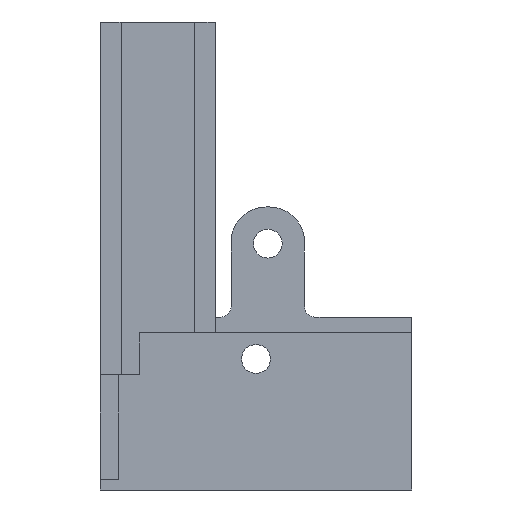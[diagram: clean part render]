
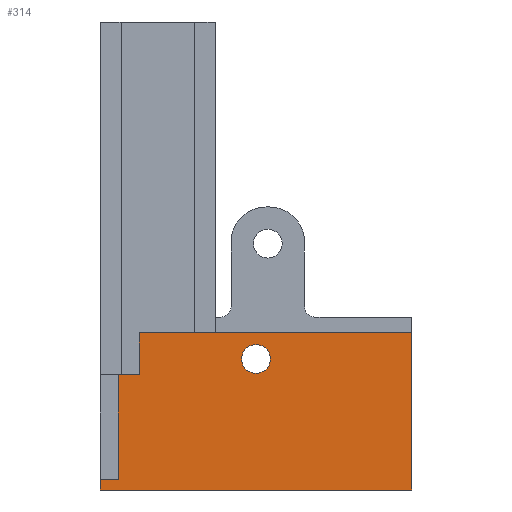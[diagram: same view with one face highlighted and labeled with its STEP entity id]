
A CAD part, front view. The second image highlights one B-rep face of the part: STEP entity #314.
In plain terms, the highlighted planar face has unit normal (0, -1, 0).
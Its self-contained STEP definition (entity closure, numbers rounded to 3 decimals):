
#3 = EDGE_CURVE ( 'NONE', #912, #860, #1227, .T. ) ;
#6 = EDGE_CURVE ( 'NONE', #904, #758, #1254, .T. ) ;
#7 = EDGE_CURVE ( 'NONE', #904, #801, #1862, .T. ) ;
#63 = EDGE_CURVE ( 'NONE', #860, #770, #1288, .T. ) ;
#106 = EDGE_CURVE ( 'NONE', #920, #796, #1729, .T. ) ;
#160 = EDGE_CURVE ( 'NONE', #770, #758, #1794, .T. ) ;
#314 = ADVANCED_FACE ( 'NONE', ( #1295, #1294 ), #2093, .F. ) ;
#468 = AXIS2_PLACEMENT_3D ( 'NONE', #4705, #4706, #4726 ) ;
#508 = AXIS2_PLACEMENT_3D ( 'NONE', #2091, #2092, #2090 ) ;
#668 = EDGE_CURVE ( 'NONE', #933, #875, #940, .T. ) ;
#682 = EDGE_CURVE ( 'NONE', #801, #875, #956, .T. ) ;
#758 = VERTEX_POINT ( 'NONE', #3171 ) ;
#770 = VERTEX_POINT ( 'NONE', #3090 ) ;
#796 = VERTEX_POINT ( 'NONE', #3278 ) ;
#801 = VERTEX_POINT ( 'NONE', #3022 ) ;
#860 = VERTEX_POINT ( 'NONE', #3200 ) ;
#875 = VERTEX_POINT ( 'NONE', #3288 ) ;
#904 = VERTEX_POINT ( 'NONE', #3266 ) ;
#912 = VERTEX_POINT ( 'NONE', #3249 ) ;
#920 = VERTEX_POINT ( 'NONE', #3104 ) ;
#933 = VERTEX_POINT ( 'NONE', #3129 ) ;
#940 = LINE ( 'NONE', #1022, #947 ) ;
#947 = VECTOR ( 'NONE', #1023, 1000. ) ;
#955 = VECTOR ( 'NONE', #3709, 1000. ) ;
#956 = LINE ( 'NONE', #3710, #955 ) ;
#1022 = CARTESIAN_POINT ( 'NONE',  ( 0., 0., 0. ) ) ;
#1023 = DIRECTION ( 'NONE',  ( 1., 0., 0. ) ) ;
#1226 = VECTOR ( 'NONE', #4138, 1000. ) ;
#1227 = LINE ( 'NONE', #4128, #1226 ) ;
#1254 = LINE ( 'NONE', #4215, #1255 ) ;
#1255 = VECTOR ( 'NONE', #4031, 1000. ) ;
#1288 = LINE ( 'NONE', #4188, #1662 ) ;
#1289 = VECTOR ( 'NONE', #4266, 1000. ) ;
#1294 = FACE_OUTER_BOUND ( 'NONE', #2249, .T. ) ;
#1295 = FACE_BOUND ( 'NONE', #2236, .T. ) ;
#1662 = VECTOR ( 'NONE', #4182, 1000. ) ;
#1729 = CIRCLE ( 'NONE', #4809, 1.375 ) ;
#1794 = LINE ( 'NONE', #4374, #1795 ) ;
#1795 = VECTOR ( 'NONE', #4380, 1000. ) ;
#1862 = LINE ( 'NONE', #4280, #1289 ) ;
#2090 = DIRECTION ( 'NONE',  ( 0., 0., 1. ) ) ;
#2091 = CARTESIAN_POINT ( 'NONE',  ( 0., 0., 11. ) ) ;
#2092 = DIRECTION ( 'NONE',  ( 0., 1., 0. ) ) ;
#2093 = PLANE ( 'NONE',  #508 ) ;
#2236 = EDGE_LOOP ( 'NONE', ( #2831, #2832 ) ) ;
#2249 = EDGE_LOOP ( 'NONE', ( #2661, #2659, #2657, #2660, #2658, #2651, #2650, #2649 ) ) ;
#2649 = ORIENTED_EDGE ( 'NONE', *, *, #6, .T. ) ;
#2650 = ORIENTED_EDGE ( 'NONE', *, *, #7, .F. ) ;
#2651 = ORIENTED_EDGE ( 'NONE', *, *, #682, .F. ) ;
#2657 = ORIENTED_EDGE ( 'NONE', *, *, #3, .F. ) ;
#2658 = ORIENTED_EDGE ( 'NONE', *, *, #668, .T. ) ;
#2659 = ORIENTED_EDGE ( 'NONE', *, *, #63, .F. ) ;
#2660 = ORIENTED_EDGE ( 'NONE', *, *, #4790, .T. ) ;
#2661 = ORIENTED_EDGE ( 'NONE', *, *, #160, .F. ) ;
#2831 = ORIENTED_EDGE ( 'NONE', *, *, #4838, .F. ) ;
#2832 = ORIENTED_EDGE ( 'NONE', *, *, #106, .F. ) ;
#3022 = CARTESIAN_POINT ( 'NONE',  ( 29.75, 0., 15. ) ) ;
#3090 = CARTESIAN_POINT ( 'NONE',  ( 1.75, 0., 11. ) ) ;
#3104 = CARTESIAN_POINT ( 'NONE',  ( 14.875, 0., 13.875 ) ) ;
#3129 = CARTESIAN_POINT ( 'NONE',  ( 0., 0., 0. ) ) ;
#3171 = CARTESIAN_POINT ( 'NONE',  ( 3.75, 0., 11. ) ) ;
#3200 = CARTESIAN_POINT ( 'NONE',  ( 1.75, 0., 1. ) ) ;
#3249 = CARTESIAN_POINT ( 'NONE',  ( 0., 0., 1. ) ) ;
#3266 = CARTESIAN_POINT ( 'NONE',  ( 3.75, 0., 15. ) ) ;
#3278 = CARTESIAN_POINT ( 'NONE',  ( 14.875, 0., 11.125 ) ) ;
#3288 = CARTESIAN_POINT ( 'NONE',  ( 29.75, 0., 0. ) ) ;
#3497 = LINE ( 'NONE', #4657, #3498 ) ;
#3498 = VECTOR ( 'NONE', #4658, 1000. ) ;
#3539 = CIRCLE ( 'NONE', #468, 1.375 ) ;
#3709 = DIRECTION ( 'NONE',  ( 0., 0., -1. ) ) ;
#3710 = CARTESIAN_POINT ( 'NONE',  ( 29.75, 0., 11. ) ) ;
#4031 = DIRECTION ( 'NONE',  ( 0., 0., -1. ) ) ;
#4040 = DIRECTION ( 'NONE',  ( 0., -1., 0. ) ) ;
#4060 = DIRECTION ( 'NONE',  ( 0., 0., -1. ) ) ;
#4063 = CARTESIAN_POINT ( 'NONE',  ( 14.875, 0., 12.5 ) ) ;
#4128 = CARTESIAN_POINT ( 'NONE',  ( 0., 0., 1. ) ) ;
#4138 = DIRECTION ( 'NONE',  ( 1., 0., 0. ) ) ;
#4182 = DIRECTION ( 'NONE',  ( 0., 0., 1. ) ) ;
#4188 = CARTESIAN_POINT ( 'NONE',  ( 1.75, 0., 1. ) ) ;
#4215 = CARTESIAN_POINT ( 'NONE',  ( 3.75, 0., 15. ) ) ;
#4266 = DIRECTION ( 'NONE',  ( 1., 0., 0. ) ) ;
#4280 = CARTESIAN_POINT ( 'NONE',  ( 29.75, 0., 15. ) ) ;
#4374 = CARTESIAN_POINT ( 'NONE',  ( 0., 0., 11. ) ) ;
#4380 = DIRECTION ( 'NONE',  ( 1., 0., 0. ) ) ;
#4657 = CARTESIAN_POINT ( 'NONE',  ( 0., 0., 11. ) ) ;
#4658 = DIRECTION ( 'NONE',  ( 0., 0., -1. ) ) ;
#4705 = CARTESIAN_POINT ( 'NONE',  ( 14.875, 0., 12.5 ) ) ;
#4706 = DIRECTION ( 'NONE',  ( 0., -1., 0. ) ) ;
#4726 = DIRECTION ( 'NONE',  ( 0., 0., -1. ) ) ;
#4790 = EDGE_CURVE ( 'NONE', #912, #933, #3497, .T. ) ;
#4809 = AXIS2_PLACEMENT_3D ( 'NONE', #4063, #4040, #4060 ) ;
#4838 = EDGE_CURVE ( 'NONE', #796, #920, #3539, .T. ) ;
